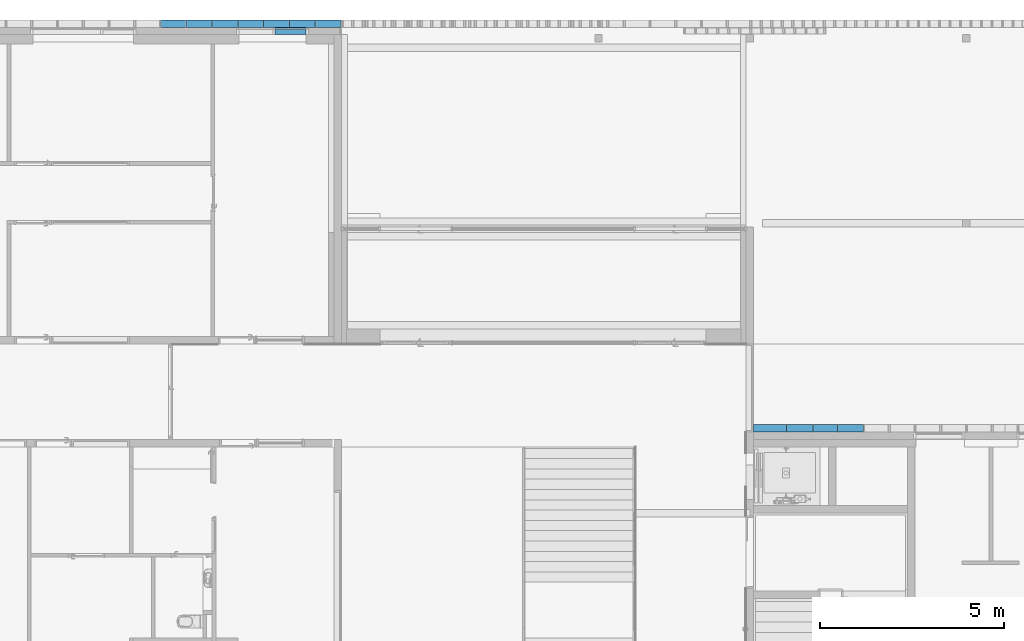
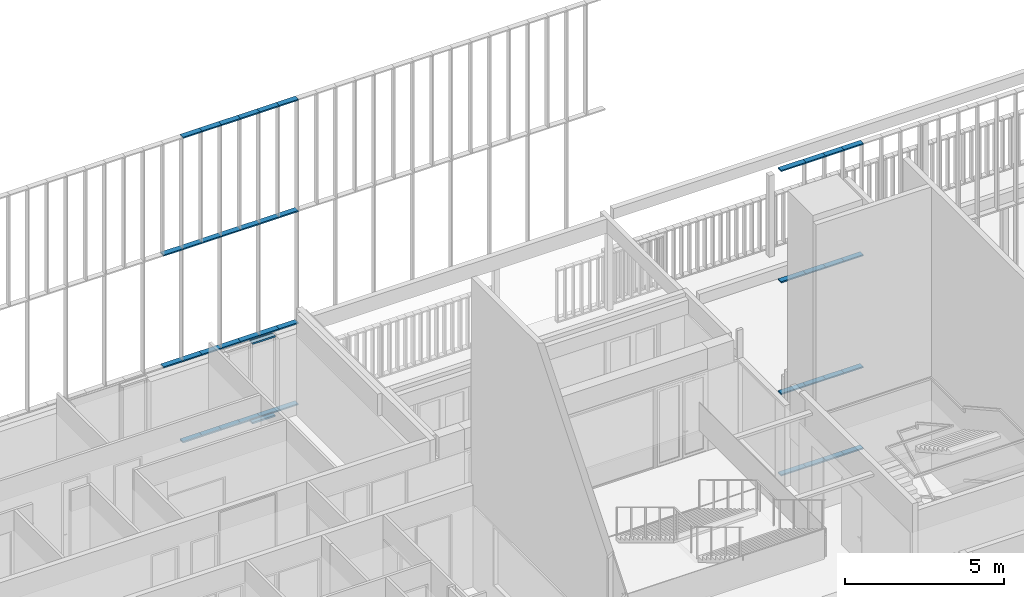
# One storey, part 44 of 240: 44 members, 3 elements without a shape of their own.
"""IFC2X3 building model written with IfcOpenShell, lengths in centimetres."""

import ifcopenshell
import ifcopenshell.guid

model = None  # the IFC model being written
_history = None  # IfcOwnerHistory: only IFC2X3 demands one
_inside = {}  # id of a spatial element -> (the spatial element, [elements in it])
_under = {}  # id of a project, library or spatial element -> (it, [spatial elements below it])
_declared = {}  # id of a project -> (the project, [libraries it declares])
_typed = {}  # id of a type object -> (the type object, [elements of that type])
_made_of = {}  # id of a material, layer set ... -> (it, [elements and type objects made of it])


def new_model(schema):
    """Start an empty IFC model of exactly this schema.

    Asked for "IFC4X3", IfcOpenShell would pick the latest addendum, in which some entities
    have other attributes; the version numbers below select the first issue.
    IFC2X3 requires an IfcOwnerHistory on every rooted entity: one is made here for all.
    """
    global model, _history
    if schema == "IFC4X3":
        model = ifcopenshell.file(schema_version=(4, 3, 0, 0))
    else:
        model = ifcopenshell.file(schema=schema)
    _inside.clear()
    _under.clear()
    _declared.clear()
    _typed.clear()
    _made_of.clear()
    _history = None
    if model.schema == "IFC2X3":
        org = make("IfcOrganization", Name="unknown")
        user = make(
            "IfcPersonAndOrganization",
            ThePerson=make("IfcPerson", FamilyName="unknown"),
            TheOrganization=org,
        )
        app = make(
            "IfcApplication",
            ApplicationDeveloper=org,
            Version="unknown",
            ApplicationFullName="unknown",
            ApplicationIdentifier="unknown",
        )
        _history = make(
            "IfcOwnerHistory",
            OwningUser=user,
            OwningApplication=app,
            ChangeAction="ADDED",
            CreationDate=0,
        )
    return model


def make(cls, **values):
    """One entity of the class cls with the attributes given. An attribute that is None is left unset."""
    return model.create_entity(
        cls, **{name: value for name, value in values.items() if value is not None}
    )


def entity(cls, *values):
    """Any entity or typed value of the class cls, its attributes in the order of the schema. None: left unset."""
    e = model.create_entity(cls)
    for i, value in enumerate(values):
        if value is not None:
            e[i] = value
    return e


def rooted(cls, **values):
    """An entity with a GlobalId (a new one), such as an element, a storey or a relation."""
    return make(cls, GlobalId=ifcopenshell.guid.new(), OwnerHistory=_history, **values)


def si_unit(unit_type, name, prefix=None):
    """IfcSIUnit, for example si_unit("LENGTHUNIT", "METRE", prefix="MILLI")."""
    return make("IfcSIUnit", UnitType=unit_type, Prefix=prefix, Name=name)


def converted_unit(unit_type, name, factor, base, dimensions=None, offset=None):
    """IfcConversionBasedUnit, such as the inch: factor (a typed value) times the base unit."""
    return make(
        "IfcConversionBasedUnit"
        if offset is None
        else "IfcConversionBasedUnitWithOffset",
        ConversionOffset=offset,
        Dimensions=None
        if dimensions is None
        else entity("IfcDimensionalExponents", *dimensions),
        UnitType=unit_type,
        Name=name,
        ConversionFactor=make(
            "IfcMeasureWithUnit", ValueComponent=factor, UnitComponent=base
        ),
    )


def derived_unit(unit_type, elements):
    """IfcDerivedUnit: a product of units, each with its exponent."""
    return make(
        "IfcDerivedUnit",
        Elements=[
            make("IfcDerivedUnitElement", Unit=unit, Exponent=power)
            for unit, power in elements
        ],
        UnitType=unit_type,
    )


def assignment(units):
    """IfcUnitAssignment: the units of a project."""
    return None if units is None else make("IfcUnitAssignment", Units=units)


def point(xyz):
    """IfcCartesianPoint."""
    return None if xyz is None else make("IfcCartesianPoint", Coordinates=xyz)


def direction(xyz):
    """IfcDirection."""
    return None if xyz is None else make("IfcDirection", DirectionRatios=xyz)


def frame(location, z_axis=None, x_axis=None):
    """IfcAxis2Placement3D, a coordinate frame: its origin and axes. An axis left out is left unset."""
    return make(
        "IfcAxis2Placement3D",
        Location=point(location),
        Axis=direction(z_axis),
        RefDirection=direction(x_axis),
    )


def frame_2d(location, x_axis=None):
    """IfcAxis2Placement2D, a coordinate frame in the plane: its origin and x axis."""
    return make(
        "IfcAxis2Placement2D", Location=point(location), RefDirection=direction(x_axis)
    )


def origin():
    """The frame at (0, 0, 0) with its axes left unset."""
    return frame((0.0, 0.0, 0.0))


def origin_2d_with_axis():
    """The frame at (0, 0) in the plane with the x axis (1, 0) written out."""
    return frame_2d((0.0, 0.0), x_axis=(1.0, 0.0))


def place(relative_to, where):
    """IfcLocalPlacement: puts the frame where relative to a parent placement (None: the world)."""
    return make(
        "IfcLocalPlacement", PlacementRelTo=relative_to, RelativePlacement=where
    )


def context(
    kind, dimensions, precision=None, world=None, true_north=None, identifier=None
):
    """IfcGeometricRepresentationContext, for example the 3D "Model" context."""
    return make(
        "IfcGeometricRepresentationContext",
        ContextIdentifier=identifier,
        ContextType=kind,
        CoordinateSpaceDimension=dimensions,
        Precision=precision,
        WorldCoordinateSystem=world,
        TrueNorth=true_north,
    )


def subcontext(parent, identifier, kind, view, scale=None):
    """IfcGeometricRepresentationSubContext, for example "Body" below "Model"."""
    return make(
        "IfcGeometricRepresentationSubContext",
        ContextIdentifier=identifier,
        ContextType=kind,
        ParentContext=parent,
        TargetScale=scale,
        TargetView=view,
    )


def project(units=None, contexts=None):
    """IfcProject with its units and contexts."""
    return rooted(
        "IfcProject",
        Name="project",
        RepresentationContexts=contexts,
        UnitsInContext=assignment(units),
    )


def spatial(cls, under=None, at=None, **own):
    """A site, building, storey or space (cls), placed at a placement, below another one or the project."""
    s = rooted(cls, ObjectPlacement=at, **own)
    if under is not None:
        _under.setdefault(under.id(), (under, []))[1].append(s)
    return s


def polyline(points):
    """IfcPolyline through the points."""
    return make("IfcPolyline", Points=[point(p) for p in points])


def profile(cls, at=None, kind="AREA", **sizes):
    """A parametric profile (cls). Its sizes go by their IFC names, for example OverallWidth=200.0."""
    return make(cls, ProfileType=kind, Position=at, **sizes)


def rectangle(**sizes):
    """IfcRectangleProfileDef."""
    return profile("IfcRectangleProfileDef", **sizes)


def outline(outer, holes=None, kind="AREA"):
    """IfcArbitraryClosedProfileDef: a profile drawn as a closed curve; with holes, ...WithVoids."""
    if holes is None:
        return make("IfcArbitraryClosedProfileDef", ProfileType=kind, OuterCurve=outer)
    return make(
        "IfcArbitraryProfileDefWithVoids",
        ProfileType=kind,
        OuterCurve=outer,
        InnerCurves=holes,
    )


def extrude(swept, where, along, depth):
    """IfcExtrudedAreaSolid: the profile swept, set in the frame where, extruded along a direction by depth."""
    return make(
        "IfcExtrudedAreaSolid",
        SweptArea=swept,
        Position=where,
        ExtrudedDirection=direction(along),
        Depth=depth,
    )


def shape(context_of_items, identifier, shape_type, items):
    """IfcShapeRepresentation: the items that make up one representation, for example the "Body"."""
    return make(
        "IfcShapeRepresentation",
        ContextOfItems=context_of_items,
        RepresentationIdentifier=identifier,
        RepresentationType=shape_type,
        Items=items,
    )


def source(mapping_origin, context_of_items, identifier, shape_type, items):
    """IfcRepresentationMap: a shape defined once, which mapped items show again and again."""
    return make(
        "IfcRepresentationMap",
        MappingOrigin=mapping_origin,
        MappedRepresentation=shape(context_of_items, identifier, shape_type, items),
    )


def transform(
    local_origin,
    x_axis=None,
    y_axis=None,
    z_axis=None,
    scale=None,
    scale2=None,
    scale3=None,
    uniform=True,
):
    """IfcCartesianTransformationOperator3D, or its non-uniform kind. x_axis, y_axis, z_axis: its Axis1, 2, 3."""
    if uniform:
        return make(
            "IfcCartesianTransformationOperator3D",
            Axis1=direction(x_axis),
            Axis2=direction(y_axis),
            LocalOrigin=point(local_origin),
            Scale=scale,
            Axis3=direction(z_axis),
        )
    return make(
        "IfcCartesianTransformationOperator3DnonUniform",
        Axis1=direction(x_axis),
        Axis2=direction(y_axis),
        LocalOrigin=point(local_origin),
        Scale=scale,
        Axis3=direction(z_axis),
        Scale2=scale2,
        Scale3=scale3,
    )


def mapped(mapping_source, mapping_target):
    """IfcMappedItem: shows the shape of a source again, moved by a transform."""
    return make(
        "IfcMappedItem", MappingSource=mapping_source, MappingTarget=mapping_target
    )


def material(Name=None, Category=None):
    """IfcMaterial."""
    return make("IfcMaterial", Name=Name, Category=Category)


def made_of(thing, what):
    """Note that an element or type object is made of a material, layer set ...; save() writes the relation."""
    if what is not None:
        _made_of.setdefault(what.id(), (what, []))[1].append(thing)
    return thing


def type_object(cls, material=None, **own):
    """A type object (cls), such as IfcWallType, which elements share."""
    return made_of(rooted(cls, **own), material)


def type_shapes(of_type, sources):
    """Give a type object the sources (RepresentationMaps) that its elements show as mapped items."""
    of_type.RepresentationMaps = sources


def element(
    cls,
    number,
    at=None,
    inside=None,
    cuts=None,
    type_object=None,
    material=None,
    context=None,
    identifier="Body",
    shape_type=None,
    held_by="IfcProductDefinitionShape",
    body=None,
    shapes=None,
    **own,
):
    """One element of the class cls, such as IfcWall. Its Tag is "e" and its number.

    at: its placement. inside: the storey or other place that contains it. cuts: it is an
    opening in that element (IfcRelVoidsElement). A single representation is given by context,
    identifier, shape_type and body (its items); several are given by shapes. held_by: the class
    of the entity that holds the representations. save() writes the other relations.
    """
    e = rooted(cls, Tag="e%d" % number, ObjectPlacement=at, **own)
    if body is not None:
        shapes = [shape(context, identifier, shape_type, body)]
    if shapes is not None:
        e.Representation = make(held_by, Representations=shapes)
    if inside is not None:
        _inside.setdefault(inside.id(), (inside, []))[1].append(e)
    if cuts is not None:
        rooted(
            "IfcRelVoidsElement", RelatingBuildingElement=cuts, RelatedOpeningElement=e
        )
    if type_object is not None:
        _typed.setdefault(type_object.id(), (type_object, []))[1].append(e)
    return made_of(e, material)


def aggregate(whole, parts):
    """IfcRelAggregates: a whole, such as a stair, and the parts it consists of."""
    return rooted("IfcRelAggregates", RelatingObject=whole, RelatedObjects=parts)


def save(model, path):
    """Write the relations noted so far, then the file.

    IfcRelAggregates (storeys below a building ...), IfcRelContainedInSpatialStructure (elements
    in a storey), IfcRelDefinesByType, IfcRelAssociatesMaterial and IfcRelDeclares: one each for
    every whole, place, type object, material and project.
    """
    for whole, parts in _under.values():
        aggregate(whole, parts)
    for where, things in _inside.values():
        rooted(
            "IfcRelContainedInSpatialStructure",
            RelatedElements=things,
            RelatingStructure=where,
        )
    for kind, things in _typed.values():
        rooted("IfcRelDefinesByType", RelatedObjects=things, RelatingType=kind)
    for what, things in _made_of.values():
        rooted("IfcRelAssociatesMaterial", RelatedObjects=things, RelatingMaterial=what)
    for by, libraries in _declared.values():
        rooted("IfcRelDeclares", RelatingContext=by, RelatedDefinitions=libraries)
    model.write(path)


model = new_model("IFC2X3")

# Units and contexts
model_context = context("Model", 3, precision=0.001, world=origin(), true_north=direction((6.12303176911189e-17, 1.0)))
body_context = subcontext(model_context, "Body", "Model", "MODEL_VIEW")
ifc_project = project(units=[si_unit("LENGTHUNIT", "METRE", prefix="CENTI"), si_unit("AREAUNIT", "SQUARE_METRE"), si_unit("VOLUMEUNIT", "CUBIC_METRE"), converted_unit("PLANEANGLEUNIT", "DEGREE", entity("IfcRatioMeasure", 0.0174532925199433), si_unit("PLANEANGLEUNIT", "RADIAN"), dimensions=[0, 0, 0, 0, 0, 0, 0]), si_unit("MASSUNIT", "GRAM", prefix="KILO"), derived_unit("MASSDENSITYUNIT", [(si_unit("MASSUNIT", "GRAM", prefix="KILO"), 1), (si_unit("LENGTHUNIT", "METRE"), -3)]), si_unit("TIMEUNIT", "SECOND"), si_unit("FREQUENCYUNIT", "HERTZ"), si_unit("THERMODYNAMICTEMPERATUREUNIT", "DEGREE_CELSIUS"), derived_unit("THERMALTRANSMITTANCEUNIT", [(si_unit("MASSUNIT", "GRAM", prefix="KILO"), 1), (si_unit("THERMODYNAMICTEMPERATUREUNIT", "KELVIN"), -1), (si_unit("TIMEUNIT", "SECOND"), -3)]), derived_unit("VOLUMETRICFLOWRATEUNIT", [(si_unit("LENGTHUNIT", "METRE"), 3), (si_unit("TIMEUNIT", "SECOND"), -1)]), si_unit("ELECTRICCURRENTUNIT", "AMPERE"), si_unit("ELECTRICVOLTAGEUNIT", "VOLT"), si_unit("POWERUNIT", "WATT"), si_unit("FORCEUNIT", "NEWTON", prefix="KILO"), si_unit("ILLUMINANCEUNIT", "LUX"), si_unit("LUMINOUSFLUXUNIT", "LUMEN"), si_unit("LUMINOUSINTENSITYUNIT", "CANDELA"), derived_unit("USERDEFINED", [(si_unit("MASSUNIT", "GRAM", prefix="KILO"), -1), (si_unit("LENGTHUNIT", "METRE"), -2), (si_unit("TIMEUNIT", "SECOND"), 3), (si_unit("LUMINOUSFLUXUNIT", "LUMEN"), 1)]), derived_unit("LINEARVELOCITYUNIT", [(si_unit("LENGTHUNIT", "METRE"), 1), (si_unit("TIMEUNIT", "SECOND"), -1)]), si_unit("PRESSUREUNIT", "PASCAL"), derived_unit("USERDEFINED", [(si_unit("LENGTHUNIT", "METRE"), -2), (si_unit("MASSUNIT", "GRAM", prefix="KILO"), 1), (si_unit("TIMEUNIT", "SECOND"), -2)])], contexts=[model_context])

# Site, building, storey
site_placement = place(None, frame((-2781.94577612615, 7442.24238424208, 0.0)))
site = spatial("IfcSite", under=ifc_project, at=site_placement, Name="Default", CompositionType="ELEMENT")
building_placement = place(site_placement, origin())
building = spatial("IfcBuilding", under=site, at=building_placement, CompositionType="ELEMENT")
storey_placement = place(building_placement, origin())
storey = spatial("IfcBuildingStorey", under=building, at=storey_placement, Name="N00 - COO", CompositionType="ELEMENT", Elevation=0.0)

# Curtain wall, members
curtain_wall_type_1 = type_object("IfcCurtainWallType", Name="Mur-rideau:07 - mur rideau trame 280 cm", PredefinedType="NOTDEFINED")
curtain_wall_1_placement = place(building_placement, origin())
curtain_wall_1 = element("IfcCurtainWall", 1, at=curtain_wall_1_placement, inside=storey, type_object=curtain_wall_type_1, Name="Mur-rideau:07 - mur rideau trame 280 cm", ObjectType="Mur-rideau:07 - mur rideau trame 280 cm")
ifc_material = material(Name="Aluminium")
member_type_1 = type_object("IfcMemberType", Name="150 x 25mm Détails", PredefinedType="MEMBER")
shared_shape_1 = source(origin(), body_context, "Body", "SweptSolid", [
    extrude(outline(polyline([(-13.3333333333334, -3.25000000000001), (0.166666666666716, -3.25000000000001), (0.166666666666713, -0.86874999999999), (3.66666666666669, -0.86874999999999), (3.66666666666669, -3.24999999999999), (5.66666666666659, -3.24999999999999), (5.66666666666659, 3.25), (3.66666666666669, 3.25), (3.66666666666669, 0.868749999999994), (0.166666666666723, 0.868749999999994), (0.166666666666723, 3.25000000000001), (-13.3333333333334, 3.24999999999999), (-13.3333333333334, -3.25000000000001)])), frame((-3.24999999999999, 1.96666666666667, -83.5000000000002), z_axis=(0.0, 0.0, 1.0), x_axis=(0.0, -1.0, 0.0)), (0.0, 0.0, 1.0), 83.5000000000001),
])
type_shapes(member_type_1, [shared_shape_1])
member_1_placement = place(building_placement, frame((-4864.49987760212, 26.2000000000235, 6.5), z_axis=(1.0, 0.0, 0.0), x_axis=(0.0, 0.0, 1.0)))
member_1 = element("IfcMember", 2, at=member_1_placement, type_object=member_type_1, material=ifc_material, Name="Meneau rectangulaire:150 x 25mm Détails", ObjectType="Meneau rectangulaire:150 x 25mm Détails", context=body_context, shape_type="MappedRepresentation", body=[
    mapped(shared_shape_1, transform((0.0, 0.0, 0.0), scale=1.0)),
])
member_type_2 = type_object("IfcMemberType", Name="150 x 25mm Détails", PredefinedType="MEMBER")
shared_shape_2 = source(origin(), body_context, "Body", "SweptSolid", [
    extrude(outline(polyline([(-13.3333333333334, -3.24999999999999), (0.166666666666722, -3.24999999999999), (0.166666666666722, -0.868749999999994), (3.66666666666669, -0.868749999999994), (3.66666666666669, -3.25), (5.66666666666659, -3.25), (5.66666666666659, 3.24999999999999), (3.66666666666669, 3.24999999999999), (3.66666666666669, 0.86874999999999), (0.166666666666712, 0.86874999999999), (0.166666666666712, 3.25000000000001), (-13.3333333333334, 3.25000000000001), (-13.3333333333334, -3.24999999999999)])), frame((-3.24999999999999, 1.96666666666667, -83.5), z_axis=(0.0, 0.0, 1.0), x_axis=(0.0, -1.0, 0.0)), (0.0, 0.0, 1.0), 83.5000000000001),
])
type_shapes(member_type_2, [shared_shape_2])
member_2_placement = place(building_placement, frame((-4947.99987760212, 26.2000000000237, 306.0), z_axis=(-1.0, 0.0, 0.0), x_axis=(0.0, 0.0, -1.0)))
member_2 = element("IfcMember", 3, at=member_2_placement, type_object=member_type_2, material=ifc_material, Name="Meneau rectangulaire:150 x 25mm Détails", ObjectType="Meneau rectangulaire:150 x 25mm Détails", context=body_context, shape_type="MappedRepresentation", body=[
    mapped(shared_shape_2, transform((0.0, 0.0, 0.0), scale=1.0)),
])
aggregate(curtain_wall_1, [member_1, member_2])

curtain_wall_type_2 = type_object("IfcCurtainWallType", Name="Mur-rideau:Epines - 200x50mm", PredefinedType="NOTDEFINED")
curtain_wall_2_placement = place(building_placement, origin())
curtain_wall_2 = element("IfcCurtainWall", 4, at=curtain_wall_2_placement, inside=storey, type_object=curtain_wall_type_2, Name="Mur-rideau:Epines - 200x50mm", ObjectType="Mur-rideau:Epines - 200x50mm")
member_type_3 = type_object("IfcMemberType", Name="200x50 mm", PredefinedType="MEMBER")
shared_shape_3 = source(origin(), body_context, "Body", "SweptSolid", [
    extrude(rectangle(XDim=20.0, YDim=5.0, at=origin_2d_with_axis()), frame((-2.5, 0.0, -70.0), z_axis=(0.0, 0.0, 1.0), x_axis=(0.0, -1.0, 0.0)), (0.0, 0.0, 1.0), 70.0000000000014),
])
type_shapes(member_type_3, [shared_shape_3])
member_3_placement = place(building_placement, frame((-5049.49987760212, 40.0, 1176.0), z_axis=(1.0, 0.0, 0.0), x_axis=(0.0, 0.0, 1.0)))
member_3 = element("IfcMember", 5, at=member_3_placement, type_object=member_type_3, material=ifc_material, Name="Meneau rectangulaire:200x50 mm", ObjectType="Meneau rectangulaire:200x50 mm", context=body_context, shape_type="MappedRepresentation", body=[
    mapped(shared_shape_3, transform((0.0, 0.0, 0.0), scale=1.0)),
])
member_4_placement = place(building_placement, frame((-4769.49987760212, 40.0, 1176.0), z_axis=(1.0, 0.0, 0.0), x_axis=(0.0, 0.0, 1.0)))
member_4 = element("IfcMember", 6, at=member_4_placement, type_object=member_type_3, material=ifc_material, Name="Meneau rectangulaire:200x50 mm", ObjectType="Meneau rectangulaire:200x50 mm", context=body_context, shape_type="MappedRepresentation", body=[
    mapped(shared_shape_3, transform((0.0, 0.0, 0.0), scale=1.0)),
])
member_5_placement = place(building_placement, frame((-4839.49987760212, 40.0, 1176.0), z_axis=(1.0, 0.0, 0.0), x_axis=(0.0, 0.0, 1.0)))
member_5 = element("IfcMember", 7, at=member_5_placement, type_object=member_type_3, material=ifc_material, Name="Meneau rectangulaire:200x50 mm", ObjectType="Meneau rectangulaire:200x50 mm", context=body_context, shape_type="MappedRepresentation", body=[
    mapped(shared_shape_3, transform((0.0, 0.0, 0.0), scale=1.0)),
])
member_6_placement = place(building_placement, frame((-4979.49987760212, 40.0, 1176.0), z_axis=(1.0, 0.0, 0.0), x_axis=(0.0, 0.0, 1.0)))
member_6 = element("IfcMember", 8, at=member_6_placement, type_object=member_type_3, material=ifc_material, Name="Meneau rectangulaire:200x50 mm", ObjectType="Meneau rectangulaire:200x50 mm", context=body_context, shape_type="MappedRepresentation", body=[
    mapped(shared_shape_3, transform((0.0, 0.0, 0.0), scale=1.0)),
])
member_7_placement = place(building_placement, frame((-4909.49987760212, 40.0, 1176.0), z_axis=(1.0, 0.0, 0.0), x_axis=(0.0, 0.0, 1.0)))
member_7 = element("IfcMember", 9, at=member_7_placement, type_object=member_type_3, material=ifc_material, Name="Meneau rectangulaire:200x50 mm", ObjectType="Meneau rectangulaire:200x50 mm", context=body_context, shape_type="MappedRepresentation", body=[
    mapped(shared_shape_3, transform((0.0, 0.0, 0.0), scale=1.0)),
])
member_8_placement = place(building_placement, frame((-5119.49987760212, 40.0, 1176.0), z_axis=(1.0, 0.0, 0.0), x_axis=(0.0, 0.0, 1.0)))
member_8 = element("IfcMember", 10, at=member_8_placement, type_object=member_type_3, material=ifc_material, Name="Meneau rectangulaire:200x50 mm", ObjectType="Meneau rectangulaire:200x50 mm", context=body_context, shape_type="MappedRepresentation", body=[
    mapped(shared_shape_3, transform((0.0, 0.0, 0.0), scale=1.0)),
])

# Curtain wall, member
curtain_wall_type_3 = type_object("IfcCurtainWallType", Name="Mur-rideau:Epines - 200x30mm", PredefinedType="NOTDEFINED")
curtain_wall_3_placement = place(storey_placement, origin())
curtain_wall_3 = element("IfcCurtainWall", 11, at=curtain_wall_3_placement, inside=storey, type_object=curtain_wall_type_3, Name="Mur-rideau:Epines - 200x30mm", ObjectType="Mur-rideau:Epines - 200x30mm")
member_9_placement = place(storey_placement, frame((-3349.29988284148, -1060.0, 1176.0), z_axis=(1.0, 0.0, 0.0), x_axis=(0.0, 0.0, 1.0)))
member_9 = element("IfcMember", 12, at=member_9_placement, type_object=member_type_3, material=ifc_material, Name="Meneau rectangulaire:200x50 mm", ObjectType="Meneau rectangulaire:200x50 mm", context=body_context, shape_type="MappedRepresentation", body=[
    mapped(shared_shape_3, transform((0.0, 0.0, 0.0), scale=1.0)),
])

# Member
member_type_4 = type_object("IfcMemberType", Name="200x50 mm", PredefinedType="MEMBER")
shared_shape_4 = source(origin(), body_context, "Body", "SweptSolid", [
    extrude(rectangle(XDim=20.0, YDim=5.0, at=origin_2d_with_axis()), frame((-2.5, 0.0, -70.0), z_axis=(0.0, 0.0, 1.0), x_axis=(0.0, -1.0, 0.0)), (0.0, 0.0, 1.0), 70.0000000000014),
])
type_shapes(member_type_4, [shared_shape_4])
member_10_placement = place(building_placement, frame((-5049.49987760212, 40.0, 0.0), z_axis=(-1.0, 0.0, 0.0), x_axis=(0.0, 0.0, -1.0)))
member_10 = element("IfcMember", 13, at=member_10_placement, type_object=member_type_4, material=ifc_material, Name="Meneau rectangulaire:200x50 mm", ObjectType="Meneau rectangulaire:200x50 mm", context=body_context, shape_type="MappedRepresentation", body=[
    mapped(shared_shape_4, transform((0.0, 0.0, 0.0), scale=1.0)),
])

member_type_5 = type_object("IfcMemberType", Name="200x50 mm", PredefinedType="MEMBER")
shared_shape_5 = source(origin(), body_context, "Body", "SweptSolid", [
    extrude(rectangle(XDim=20.0, YDim=5.0, at=origin_2d_with_axis()), frame((0.0, 0.0, -70.0), z_axis=(0.0, 0.0, 1.0), x_axis=(0.0, -1.0, 0.0)), (0.0, 0.0, 1.0), 70.0000000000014),
])
type_shapes(member_type_5, [shared_shape_5])
member_11_placement = place(building_placement, frame((-4979.49987760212, 40.0, 315.0), z_axis=(1.0, 0.0, 0.0), x_axis=(0.0, 0.0, 1.0)))
member_11 = element("IfcMember", 14, at=member_11_placement, type_object=member_type_5, material=ifc_material, Name="Meneau rectangulaire:200x50 mm", ObjectType="Meneau rectangulaire:200x50 mm", context=body_context, shape_type="MappedRepresentation", body=[
    mapped(shared_shape_5, transform((0.0, 0.0, 0.0), scale=1.0)),
])

member_12_placement = place(building_placement, frame((-4839.49987760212, 40.0, 315.0), z_axis=(1.0, 0.0, 0.0), x_axis=(0.0, 0.0, 1.0)))
member_12 = element("IfcMember", 15, at=member_12_placement, type_object=member_type_5, material=ifc_material, Name="Meneau rectangulaire:200x50 mm", ObjectType="Meneau rectangulaire:200x50 mm", context=body_context, shape_type="MappedRepresentation", body=[
    mapped(shared_shape_5, transform((0.0, 0.0, 0.0), scale=1.0)),
])

member_13_placement = place(building_placement, frame((-5119.49987760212, 40.0, 315.0), z_axis=(1.0, 0.0, 0.0), x_axis=(0.0, 0.0, 1.0)))
member_13 = element("IfcMember", 16, at=member_13_placement, type_object=member_type_5, material=ifc_material, Name="Meneau rectangulaire:200x50 mm", ObjectType="Meneau rectangulaire:200x50 mm", context=body_context, shape_type="MappedRepresentation", body=[
    mapped(shared_shape_5, transform((0.0, 0.0, 0.0), scale=1.0)),
])

member_type_6 = type_object("IfcMemberType", Name="200x50 mm", PredefinedType="MEMBER")
shared_shape_6 = source(origin(), body_context, "Body", "SweptSolid", [
    extrude(rectangle(XDim=20.0, YDim=5.0, at=origin_2d_with_axis()), frame((0.0, 0.0, -70.0), z_axis=(0.0, 0.0, 1.0), x_axis=(0.0, -1.0, 0.0)), (0.0, 0.0, 1.0), 70.0000000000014),
])
type_shapes(member_type_6, [shared_shape_6])
member_14_placement = place(building_placement, frame((-4979.49987760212, 40.0, 745.5), z_axis=(1.0, 0.0, 0.0), x_axis=(0.0, 0.0, 1.0)))
member_14 = element("IfcMember", 17, at=member_14_placement, type_object=member_type_6, material=ifc_material, Name="Meneau rectangulaire:200x50 mm", ObjectType="Meneau rectangulaire:200x50 mm", context=body_context, shape_type="MappedRepresentation", body=[
    mapped(shared_shape_6, transform((0.0, 0.0, 0.0), scale=1.0)),
])

member_15_placement = place(building_placement, frame((-4769.49987760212, 40.0, 745.5), z_axis=(1.0, 0.0, 0.0), x_axis=(0.0, 0.0, 1.0)))
member_15 = element("IfcMember", 18, at=member_15_placement, type_object=member_type_6, material=ifc_material, Name="Meneau rectangulaire:200x50 mm", ObjectType="Meneau rectangulaire:200x50 mm", context=body_context, shape_type="MappedRepresentation", body=[
    mapped(shared_shape_6, transform((0.0, 0.0, 0.0), scale=1.0)),
])

member_16_placement = place(building_placement, frame((-4909.49987760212, 40.0, 745.5), z_axis=(1.0, 0.0, 0.0), x_axis=(0.0, 0.0, 1.0)))
member_16 = element("IfcMember", 19, at=member_16_placement, type_object=member_type_6, material=ifc_material, Name="Meneau rectangulaire:200x50 mm", ObjectType="Meneau rectangulaire:200x50 mm", context=body_context, shape_type="MappedRepresentation", body=[
    mapped(shared_shape_6, transform((0.0, 0.0, 0.0), scale=1.0)),
])

member_17_placement = place(building_placement, frame((-4839.49987760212, 40.0, 745.5), z_axis=(1.0, 0.0, 0.0), x_axis=(0.0, 0.0, 1.0)))
member_17 = element("IfcMember", 20, at=member_17_placement, type_object=member_type_6, material=ifc_material, Name="Meneau rectangulaire:200x50 mm", ObjectType="Meneau rectangulaire:200x50 mm", context=body_context, shape_type="MappedRepresentation", body=[
    mapped(shared_shape_6, transform((0.0, 0.0, 0.0), scale=1.0)),
])

member_18_placement = place(building_placement, frame((-5119.49987760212, 40.0, 745.5), z_axis=(1.0, 0.0, 0.0), x_axis=(0.0, 0.0, 1.0)))
member_18 = element("IfcMember", 21, at=member_18_placement, type_object=member_type_6, material=ifc_material, Name="Meneau rectangulaire:200x50 mm", ObjectType="Meneau rectangulaire:200x50 mm", context=body_context, shape_type="MappedRepresentation", body=[
    mapped(shared_shape_6, transform((0.0, 0.0, 0.0), scale=1.0)),
])

member_19_placement = place(building_placement, frame((-5049.49987760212, 40.0, 745.5), z_axis=(1.0, 0.0, 0.0), x_axis=(0.0, 0.0, 1.0)))
member_19 = element("IfcMember", 22, at=member_19_placement, type_object=member_type_6, material=ifc_material, Name="Meneau rectangulaire:200x50 mm", ObjectType="Meneau rectangulaire:200x50 mm", context=body_context, shape_type="MappedRepresentation", body=[
    mapped(shared_shape_6, transform((0.0, 0.0, 0.0), scale=1.0)),
])

member_20_placement = place(building_placement, frame((-5189.49987760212, 40.0, 745.5), z_axis=(1.0, 0.0, 0.0), x_axis=(0.0, 0.0, 1.0)))
member_20 = element("IfcMember", 23, at=member_20_placement, type_object=member_type_6, material=ifc_material, Name="Meneau rectangulaire:200x50 mm", ObjectType="Meneau rectangulaire:200x50 mm", context=body_context, shape_type="MappedRepresentation", body=[
    mapped(shared_shape_6, transform((0.0, 0.0, 0.0), scale=1.0)),
])

member_21_placement = place(storey_placement, frame((-3349.29988284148, -1060.0, 745.5), z_axis=(1.0, 0.0, 0.0), x_axis=(0.0, 0.0, 1.0)))
member_21 = element("IfcMember", 24, at=member_21_placement, type_object=member_type_6, material=ifc_material, Name="Meneau rectangulaire:200x50 mm", ObjectType="Meneau rectangulaire:200x50 mm", context=body_context, shape_type="MappedRepresentation", body=[
    mapped(shared_shape_6, transform((0.0, 0.0, 0.0), scale=1.0)),
])

member_type_7 = type_object("IfcMemberType", Name="200x50 mm", PredefinedType="MEMBER")
shared_shape_7 = source(origin(), body_context, "Body", "SweptSolid", [
    extrude(rectangle(XDim=20.0, YDim=5.0, at=origin_2d_with_axis()), frame((-2.5, 0.0, -70.0), z_axis=(0.0, 0.0, 1.0), x_axis=(0.0, -1.0, 0.0)), (0.0, 0.0, 1.0), 69.9999999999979),
])
type_shapes(member_type_7, [shared_shape_7])
member_22_placement = place(building_placement, frame((-4979.49987760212, 40.0, 0.0), z_axis=(-1.0, 0.0, 0.0), x_axis=(0.0, 0.0, -1.0)))
member_22 = element("IfcMember", 25, at=member_22_placement, type_object=member_type_7, material=ifc_material, Name="Meneau rectangulaire:200x50 mm", ObjectType="Meneau rectangulaire:200x50 mm", context=body_context, shape_type="MappedRepresentation", body=[
    mapped(shared_shape_7, transform((0.0, 0.0, 0.0), scale=1.0)),
])

member_23_placement = place(building_placement, frame((-4909.49987760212, 40.0, 0.0), z_axis=(-1.0, 0.0, 0.0), x_axis=(0.0, 0.0, -1.0)))
member_23 = element("IfcMember", 26, at=member_23_placement, type_object=member_type_7, material=ifc_material, Name="Meneau rectangulaire:200x50 mm", ObjectType="Meneau rectangulaire:200x50 mm", context=body_context, shape_type="MappedRepresentation", body=[
    mapped(shared_shape_7, transform((0.0, 0.0, 0.0), scale=1.0)),
])

member_24_placement = place(building_placement, frame((-5189.49987760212, 40.0, 0.0), z_axis=(-1.0, 0.0, 0.0), x_axis=(0.0, 0.0, -1.0)))
member_24 = element("IfcMember", 27, at=member_24_placement, type_object=member_type_7, material=ifc_material, Name="Meneau rectangulaire:200x50 mm", ObjectType="Meneau rectangulaire:200x50 mm", context=body_context, shape_type="MappedRepresentation", body=[
    mapped(shared_shape_7, transform((0.0, 0.0, 0.0), scale=1.0)),
])

member_25_placement = place(storey_placement, frame((-3419.29988284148, -1060.0, 0.0), z_axis=(-1.0, 0.0, 0.0), x_axis=(0.0, 0.0, -1.0)))
member_25 = element("IfcMember", 28, at=member_25_placement, type_object=member_type_7, material=ifc_material, Name="Meneau rectangulaire:200x50 mm", ObjectType="Meneau rectangulaire:200x50 mm", context=body_context, shape_type="MappedRepresentation", body=[
    mapped(shared_shape_7, transform((0.0, 0.0, 0.0), scale=1.0)),
])

member_type_8 = type_object("IfcMemberType", Name="200x50 mm", PredefinedType="MEMBER")
shared_shape_8 = source(origin(), body_context, "Body", "SweptSolid", [
    extrude(rectangle(XDim=20.0, YDim=5.0, at=origin_2d_with_axis()), frame((-2.5, 0.0, -69.9999994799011), z_axis=(0.0, 0.0, 1.0), x_axis=(0.0, -1.0, 0.0)), (0.0, 0.0, 1.0), 69.9999994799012),
])
type_shapes(member_type_8, [shared_shape_8])
member_26_placement = place(building_placement, frame((-4839.49987760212, 40.0, 0.0), z_axis=(-1.0, 0.0, 0.0), x_axis=(0.0, 0.0, -1.0)))
member_26 = element("IfcMember", 29, at=member_26_placement, type_object=member_type_8, material=ifc_material, Name="Meneau rectangulaire:200x50 mm", ObjectType="Meneau rectangulaire:200x50 mm", context=body_context, shape_type="MappedRepresentation", body=[
    mapped(shared_shape_8, transform((0.0, 0.0, 0.0), scale=1.0)),
])

member_type_9 = type_object("IfcMemberType", Name="200x50 mm", PredefinedType="MEMBER")
shared_shape_9 = source(origin(), body_context, "Body", "SweptSolid", [
    extrude(rectangle(XDim=20.0, YDim=5.0, at=origin_2d_with_axis()), frame((0.0, 0.0, -70.0), z_axis=(0.0, 0.0, 1.0), x_axis=(0.0, -1.0, 0.0)), (0.0, 0.0, 1.0), 70.0000000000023),
])
type_shapes(member_type_9, [shared_shape_9])
member_27_placement = place(building_placement, frame((-4769.49987760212, 40.0, 315.0), z_axis=(1.0, 0.0, 0.0), x_axis=(0.0, 0.0, 1.0)))
member_27 = element("IfcMember", 30, at=member_27_placement, type_object=member_type_9, material=ifc_material, Name="Meneau rectangulaire:200x50 mm", ObjectType="Meneau rectangulaire:200x50 mm", context=body_context, shape_type="MappedRepresentation", body=[
    mapped(shared_shape_9, transform((0.0, 0.0, 0.0), scale=1.0)),
])

member_28_placement = place(building_placement, frame((-4909.49987760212, 40.0, 315.0), z_axis=(1.0, 0.0, 0.0), x_axis=(0.0, 0.0, 1.0)))
member_28 = element("IfcMember", 31, at=member_28_placement, type_object=member_type_9, material=ifc_material, Name="Meneau rectangulaire:200x50 mm", ObjectType="Meneau rectangulaire:200x50 mm", context=body_context, shape_type="MappedRepresentation", body=[
    mapped(shared_shape_9, transform((0.0, 0.0, 0.0), scale=1.0)),
])

member_29_placement = place(building_placement, frame((-5049.49987760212, 40.0, 315.0), z_axis=(1.0, 0.0, 0.0), x_axis=(0.0, 0.0, 1.0)))
member_29 = element("IfcMember", 32, at=member_29_placement, type_object=member_type_9, material=ifc_material, Name="Meneau rectangulaire:200x50 mm", ObjectType="Meneau rectangulaire:200x50 mm", context=body_context, shape_type="MappedRepresentation", body=[
    mapped(shared_shape_9, transform((0.0, 0.0, 0.0), scale=1.0)),
])

member_30_placement = place(building_placement, frame((-5189.49987760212, 40.0, 315.0), z_axis=(1.0, 0.0, 0.0), x_axis=(0.0, 0.0, 1.0)))
member_30 = element("IfcMember", 33, at=member_30_placement, type_object=member_type_9, material=ifc_material, Name="Meneau rectangulaire:200x50 mm", ObjectType="Meneau rectangulaire:200x50 mm", context=body_context, shape_type="MappedRepresentation", body=[
    mapped(shared_shape_9, transform((0.0, 0.0, 0.0), scale=1.0)),
])

member_31_placement = place(storey_placement, frame((-3349.29988284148, -1060.0, 315.5), z_axis=(1.0, 0.0, 0.0), x_axis=(0.0, 0.0, 1.0)))
member_31 = element("IfcMember", 34, at=member_31_placement, type_object=member_type_9, material=ifc_material, Name="Meneau rectangulaire:200x50 mm", ObjectType="Meneau rectangulaire:200x50 mm", context=body_context, shape_type="MappedRepresentation", body=[
    mapped(shared_shape_9, transform((0.0, 0.0, 0.0), scale=1.0)),
])

member_type_10 = type_object("IfcMemberType", Name="200x50 mm", PredefinedType="MEMBER")
shared_shape_10 = source(origin(), body_context, "Body", "SweptSolid", [
    extrude(rectangle(XDim=20.0, YDim=5.0, at=origin_2d_with_axis()), frame((-2.5, 0.0, -70.0), z_axis=(0.0, 0.0, 1.0), x_axis=(0.0, -1.0, 0.0)), (0.0, 0.0, 1.0), 70.0000000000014),
])
type_shapes(member_type_10, [shared_shape_10])
member_32_placement = place(building_placement, frame((-5119.49987760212, 40.0, 0.0), z_axis=(-1.0, 0.0, 0.0), x_axis=(0.0, 0.0, -1.0)))
member_32 = element("IfcMember", 35, at=member_32_placement, type_object=member_type_10, material=ifc_material, Name="Meneau rectangulaire:200x50 mm", ObjectType="Meneau rectangulaire:200x50 mm", context=body_context, shape_type="MappedRepresentation", body=[
    mapped(shared_shape_10, transform((0.0, 0.0, 0.0), scale=1.0)),
])

aggregate(curtain_wall_2, [member_3, member_10, member_11, member_14, member_4, member_5, member_26, member_27, member_15, member_6, member_22, member_28, member_16, member_7, member_23, member_12, member_17, member_24, member_13, member_18, member_8, member_32, member_29, member_19, member_30, member_20])

member_type_11 = type_object("IfcMemberType", Name="200x50 mm", PredefinedType="MEMBER")
shared_shape_11 = source(origin(), body_context, "Body", "SweptSolid", [
    extrude(rectangle(XDim=20.0, YDim=5.0, at=origin_2d_with_axis()), frame((-2.5, 0.0, -89.6999984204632), z_axis=(0.0, 0.0, 1.0), x_axis=(0.0, -1.0, 0.0)), (0.0, 0.0, 1.0), 89.6999984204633),
])
type_shapes(member_type_11, [shared_shape_11])
member_33_placement = place(storey_placement, frame((-3647.99987968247, -1060.0, 0.0), z_axis=(-1.0, 0.0, 0.0), x_axis=(0.0, 0.0, -1.0)))
member_33 = element("IfcMember", 36, at=member_33_placement, type_object=member_type_11, material=ifc_material, Name="Meneau rectangulaire:200x50 mm", ObjectType="Meneau rectangulaire:200x50 mm", context=body_context, shape_type="MappedRepresentation", body=[
    mapped(shared_shape_11, transform((0.0, 0.0, 0.0), scale=1.0)),
])

member_type_12 = type_object("IfcMemberType", Name="200x50 mm", PredefinedType="MEMBER")
shared_shape_12 = source(origin(), body_context, "Body", "SweptSolid", [
    extrude(rectangle(XDim=20.0, YDim=5.0, at=origin_2d_with_axis()), frame((0.0, 0.0, -89.6999984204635), z_axis=(0.0, 0.0, 1.0), x_axis=(0.0, -1.0, 0.0)), (0.0, 0.0, 1.0), 89.6999984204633),
])
type_shapes(member_type_12, [shared_shape_12])
member_34_placement = place(storey_placement, frame((-3558.299881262, -1060.0, 315.5), z_axis=(1.0, 0.0, 0.0), x_axis=(0.0, 0.0, 1.0)))
member_34 = element("IfcMember", 37, at=member_34_placement, type_object=member_type_12, material=ifc_material, Name="Meneau rectangulaire:200x50 mm", ObjectType="Meneau rectangulaire:200x50 mm", context=body_context, shape_type="MappedRepresentation", body=[
    mapped(shared_shape_12, transform((0.0, 0.0, 0.0), scale=1.0)),
])

member_type_13 = type_object("IfcMemberType", Name="200x50 mm", PredefinedType="MEMBER")
shared_shape_13 = source(origin(), body_context, "Body", "SweptSolid", [
    extrude(rectangle(XDim=20.0, YDim=5.0, at=origin_2d_with_axis()), frame((0.0, 0.0, -89.6999984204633), z_axis=(0.0, 0.0, 1.0), x_axis=(0.0, -1.0, 0.0)), (0.0, 0.0, 1.0), 89.6999984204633),
])
type_shapes(member_type_13, [shared_shape_13])
member_35_placement = place(storey_placement, frame((-3558.299881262, -1060.0, 745.5), z_axis=(1.0, 0.0, 0.0), x_axis=(0.0, 0.0, 1.0)))
member_35 = element("IfcMember", 38, at=member_35_placement, type_object=member_type_13, material=ifc_material, Name="Meneau rectangulaire:200x50 mm", ObjectType="Meneau rectangulaire:200x50 mm", context=body_context, shape_type="MappedRepresentation", body=[
    mapped(shared_shape_13, transform((0.0, 0.0, 0.0), scale=1.0)),
])

member_type_14 = type_object("IfcMemberType", Name="200x50 mm", PredefinedType="MEMBER")
shared_shape_14 = source(origin(), body_context, "Body", "SweptSolid", [
    extrude(rectangle(XDim=20.0, YDim=5.0, at=origin_2d_with_axis()), frame((-2.5, 0.0, -71.9999984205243), z_axis=(0.0, 0.0, 1.0), x_axis=(0.0, -1.0, 0.0)), (0.0, 0.0, 1.0), 71.9999984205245),
])
type_shapes(member_type_14, [shared_shape_14])
member_36_placement = place(storey_placement, frame((-3486.29988284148, -1060.0, 1176.0), z_axis=(1.0, 0.0, 0.0), x_axis=(0.0, 0.0, 1.0)))
member_36 = element("IfcMember", 39, at=member_36_placement, type_object=member_type_14, material=ifc_material, Name="Meneau rectangulaire:200x50 mm", ObjectType="Meneau rectangulaire:200x50 mm", context=body_context, shape_type="MappedRepresentation", body=[
    mapped(shared_shape_14, transform((0.0, 0.0, 0.0), scale=1.0)),
])

member_type_15 = type_object("IfcMemberType", Name="200x50 mm", PredefinedType="MEMBER")
shared_shape_15 = source(origin(), body_context, "Body", "SweptSolid", [
    extrude(rectangle(XDim=20.0, YDim=5.0, at=origin_2d_with_axis()), frame((-2.5, 0.0, -67.0), z_axis=(0.0, 0.0, 1.0), x_axis=(0.0, -1.0, 0.0)), (0.0, 0.0, 1.0), 66.9999999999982),
])
type_shapes(member_type_15, [shared_shape_15])
member_37_placement = place(storey_placement, frame((-3486.29988284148, -1060.0, 0.0), z_axis=(-1.0, 0.0, 0.0), x_axis=(0.0, 0.0, -1.0)))
member_37 = element("IfcMember", 40, at=member_37_placement, type_object=member_type_15, material=ifc_material, Name="Meneau rectangulaire:200x50 mm", ObjectType="Meneau rectangulaire:200x50 mm", context=body_context, shape_type="MappedRepresentation", body=[
    mapped(shared_shape_15, transform((0.0, 0.0, 0.0), scale=1.0)),
])

member_type_16 = type_object("IfcMemberType", Name="200x50 mm", PredefinedType="MEMBER")
shared_shape_16 = source(origin(), body_context, "Body", "SweptSolid", [
    extrude(rectangle(XDim=20.0, YDim=5.0, at=origin_2d_with_axis()), frame((0.0, 0.0, -67.0), z_axis=(0.0, 0.0, 1.0), x_axis=(0.0, -1.0, 0.0)), (0.0, 0.0, 1.0), 66.9999999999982),
])
type_shapes(member_type_16, [shared_shape_16])
member_38_placement = place(storey_placement, frame((-3419.29988284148, -1060.0, 315.5), z_axis=(1.0, 0.0, 0.0), x_axis=(0.0, 0.0, 1.0)))
member_38 = element("IfcMember", 41, at=member_38_placement, type_object=member_type_16, material=ifc_material, Name="Meneau rectangulaire:200x50 mm", ObjectType="Meneau rectangulaire:200x50 mm", context=body_context, shape_type="MappedRepresentation", body=[
    mapped(shared_shape_16, transform((0.0, 0.0, 0.0), scale=1.0)),
])

member_type_17 = type_object("IfcMemberType", Name="200x50 mm", PredefinedType="MEMBER")
shared_shape_17 = source(origin(), body_context, "Body", "SweptSolid", [
    extrude(rectangle(XDim=20.0, YDim=5.0, at=origin_2d_with_axis()), frame((0.0, 0.0, -67.0), z_axis=(0.0, 0.0, 1.0), x_axis=(0.0, -1.0, 0.0)), (0.0, 0.0, 1.0), 66.9999999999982),
])
type_shapes(member_type_17, [shared_shape_17])
member_39_placement = place(storey_placement, frame((-3419.29988284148, -1060.0, 745.5), z_axis=(1.0, 0.0, 0.0), x_axis=(0.0, 0.0, 1.0)))
member_39 = element("IfcMember", 42, at=member_39_placement, type_object=member_type_17, material=ifc_material, Name="Meneau rectangulaire:200x50 mm", ObjectType="Meneau rectangulaire:200x50 mm", context=body_context, shape_type="MappedRepresentation", body=[
    mapped(shared_shape_17, transform((0.0, 0.0, 0.0), scale=1.0)),
])

member_type_18 = type_object("IfcMemberType", Name="200x50 mm", PredefinedType="MEMBER")
shared_shape_18 = source(origin(), body_context, "Body", "SweptSolid", [
    extrude(rectangle(XDim=20.0, YDim=5.0, at=origin_2d_with_axis()), frame((-2.5, 0.0, -67.0), z_axis=(0.0, 0.0, 1.0), x_axis=(0.0, -1.0, 0.0)), (0.0, 0.0, 1.0), 66.9999999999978),
])
type_shapes(member_type_18, [shared_shape_18])
member_40_placement = place(storey_placement, frame((-3419.29988284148, -1060.0, 1176.0), z_axis=(1.0, 0.0, 0.0), x_axis=(0.0, 0.0, 1.0)))
member_40 = element("IfcMember", 43, at=member_40_placement, type_object=member_type_18, material=ifc_material, Name="Meneau rectangulaire:200x50 mm", ObjectType="Meneau rectangulaire:200x50 mm", context=body_context, shape_type="MappedRepresentation", body=[
    mapped(shared_shape_18, transform((0.0, 0.0, 0.0), scale=1.0)),
])

member_type_19 = type_object("IfcMemberType", Name="200x50 mm", PredefinedType="MEMBER")
shared_shape_19 = source(origin(), body_context, "Body", "SweptSolid", [
    extrude(rectangle(XDim=20.0, YDim=5.0, at=origin_2d_with_axis()), frame((-2.5, 0.0, -89.6999984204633), z_axis=(0.0, 0.0, 1.0), x_axis=(0.0, -1.0, 0.0)), (0.0, 0.0, 1.0), 89.6999984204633),
])
type_shapes(member_type_19, [shared_shape_19])
member_41_placement = place(storey_placement, frame((-3558.299881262, -1060.0, 1176.0), z_axis=(1.0, 0.0, 0.0), x_axis=(0.0, 0.0, 1.0)))
member_41 = element("IfcMember", 44, at=member_41_placement, type_object=member_type_19, material=ifc_material, Name="Meneau rectangulaire:200x50 mm", ObjectType="Meneau rectangulaire:200x50 mm", context=body_context, shape_type="MappedRepresentation", body=[
    mapped(shared_shape_19, transform((0.0, 0.0, 0.0), scale=1.0)),
])

member_type_20 = type_object("IfcMemberType", Name="200x50 mm", PredefinedType="MEMBER")
shared_shape_20 = source(origin(), body_context, "Body", "SweptSolid", [
    extrude(rectangle(XDim=20.0, YDim=5.0, at=origin_2d_with_axis()), frame((-2.5, 0.0, -71.9999984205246), z_axis=(0.0, 0.0, 1.0), x_axis=(0.0, -1.0, 0.0)), (0.0, 0.0, 1.0), 71.9999984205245),
])
type_shapes(member_type_20, [shared_shape_20])
member_42_placement = place(storey_placement, frame((-3558.299881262, -1060.0, 0.0), z_axis=(-1.0, 0.0, 0.0), x_axis=(0.0, 0.0, -1.0)))
member_42 = element("IfcMember", 45, at=member_42_placement, type_object=member_type_20, material=ifc_material, Name="Meneau rectangulaire:200x50 mm", ObjectType="Meneau rectangulaire:200x50 mm", context=body_context, shape_type="MappedRepresentation", body=[
    mapped(shared_shape_20, transform((0.0, 0.0, 0.0), scale=1.0)),
])

member_type_21 = type_object("IfcMemberType", Name="200x50 mm", PredefinedType="MEMBER")
shared_shape_21 = source(origin(), body_context, "Body", "SweptSolid", [
    extrude(rectangle(XDim=20.0, YDim=5.0, at=origin_2d_with_axis()), frame((0.0, 0.0, -71.9999984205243), z_axis=(0.0, 0.0, 1.0), x_axis=(0.0, -1.0, 0.0)), (0.0, 0.0, 1.0), 71.9999984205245),
])
type_shapes(member_type_21, [shared_shape_21])
member_43_placement = place(storey_placement, frame((-3486.29988284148, -1060.0, 315.5), z_axis=(1.0, 0.0, 0.0), x_axis=(0.0, 0.0, 1.0)))
member_43 = element("IfcMember", 46, at=member_43_placement, type_object=member_type_21, material=ifc_material, Name="Meneau rectangulaire:200x50 mm", ObjectType="Meneau rectangulaire:200x50 mm", context=body_context, shape_type="MappedRepresentation", body=[
    mapped(shared_shape_21, transform((0.0, 0.0, 0.0), scale=1.0)),
])

member_type_22 = type_object("IfcMemberType", Name="200x50 mm", PredefinedType="MEMBER")
shared_shape_22 = source(origin(), body_context, "Body", "SweptSolid", [
    extrude(rectangle(XDim=20.0, YDim=5.0, at=origin_2d_with_axis()), frame((0.0, 0.0, -71.9999984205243), z_axis=(0.0, 0.0, 1.0), x_axis=(0.0, -1.0, 0.0)), (0.0, 0.0, 1.0), 71.9999984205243),
])
type_shapes(member_type_22, [shared_shape_22])
member_44_placement = place(storey_placement, frame((-3486.29988284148, -1060.0, 745.5), z_axis=(1.0, 0.0, 0.0), x_axis=(0.0, 0.0, 1.0)))
member_44 = element("IfcMember", 47, at=member_44_placement, type_object=member_type_22, material=ifc_material, Name="Meneau rectangulaire:200x50 mm", ObjectType="Meneau rectangulaire:200x50 mm", context=body_context, shape_type="MappedRepresentation", body=[
    mapped(shared_shape_22, transform((0.0, 0.0, 0.0), scale=1.0)),
])

aggregate(curtain_wall_3, [member_33, member_34, member_35, member_36, member_37, member_38, member_39, member_9, member_40, member_25, member_31, member_21, member_41, member_42, member_43, member_44])

save(model, "model.ifc")
